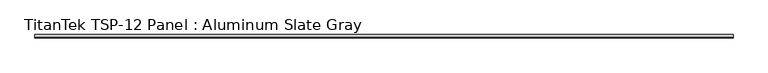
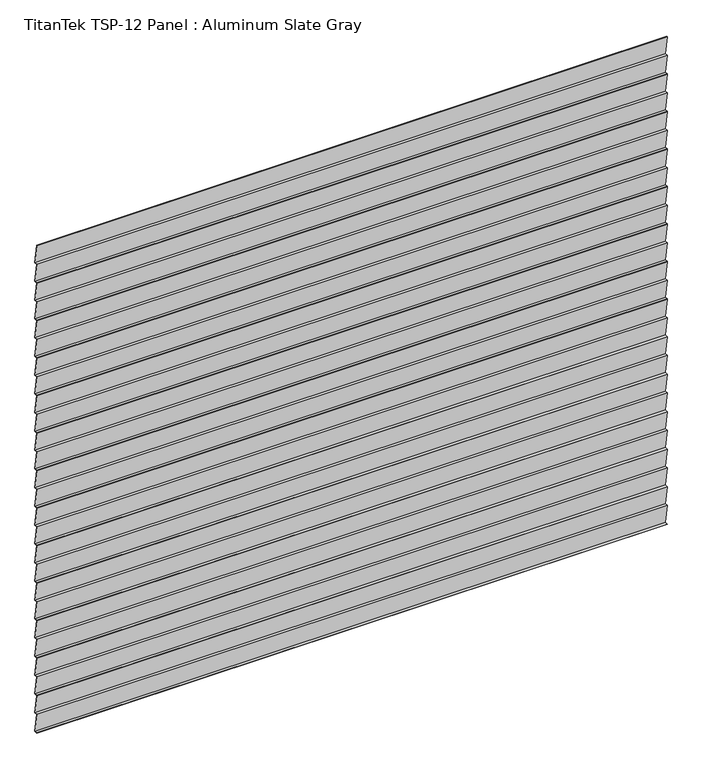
"""IFC4 building model written with IfcOpenShell, lengths in millimetres: proxy geometry, TitanTek TSP-12 Panel : Aluminum Slate Gray."""

from ifc_helpers import new_model, si_unit, frame, origin, place, context, project, spatial, polyline, outline, extrude, source, transform, mapped, element, save


def titantek_tsp_12_panel_aluminum_slate_gray_a38cbdb6(model_context):
    return source(origin(), model_context, "Body", "SweptSolid", [
        extrude(outline(polyline([(-4.1671875, 3810.9921875), (-25.2617655, 3962.4), (-24.2599947, 3962.4), (-3.0271822, 3810.0), (-24.2599947, 3810.0), (-3.0271822, 3657.6), (-25.4, 3657.6), (-25.4, 3658.5921875), (-4.1671875, 3658.5921875), (-25.4, 3810.9921875), (-4.1671875, 3810.9921875)])), frame((0.0, 0.0, 0.0), z_axis=(1.0, 0.0, 0.0), x_axis=(0.0, 1.0, 0.0)), (0.0, 0.0, 1.0), 4850.0),
        extrude(outline(polyline([(-4.1671875, 3506.1921875), (-25.2617655, 3657.6), (-24.2599947, 3657.6), (-3.0271822, 3505.2), (-24.2599947, 3505.2), (-3.0271822, 3352.8), (-25.4, 3352.8), (-25.4, 3353.7921875), (-4.1671875, 3353.7921875), (-25.4, 3506.1921875), (-4.1671875, 3506.1921875)])), frame((0.0, 0.0, 0.0), z_axis=(1.0, 0.0, 0.0), x_axis=(0.0, 1.0, 0.0)), (0.0, 0.0, 1.0), 4850.0),
        extrude(outline(polyline([(-4.1671875, 3201.3921875), (-25.2617655, 3352.8), (-24.2599947, 3352.8), (-3.0271822, 3200.4), (-24.2599947, 3200.4), (-3.0271822, 3048.0), (-25.4, 3048.0), (-25.4, 3048.9921875), (-4.1671875, 3048.9921875), (-25.4, 3201.3921875), (-4.1671875, 3201.3921875)])), frame((0.0, 0.0, 0.0), z_axis=(1.0, 0.0, 0.0), x_axis=(0.0, 1.0, 0.0)), (0.0, 0.0, 1.0), 4850.0),
        extrude(outline(polyline([(-4.1671875, 2896.5921875), (-25.2617655, 3048.0), (-24.2599947, 3048.0), (-3.0271822, 2895.6), (-24.2599947, 2895.6), (-3.0271822, 2743.2), (-25.4, 2743.2), (-25.4, 2744.1921875), (-4.1671875, 2744.1921875), (-25.4, 2896.5921875), (-4.1671875, 2896.5921875)])), frame((0.0, 0.0, 0.0), z_axis=(1.0, 0.0, 0.0), x_axis=(0.0, 1.0, 0.0)), (0.0, 0.0, 1.0), 4850.0),
        extrude(outline(polyline([(-4.1671875, 2591.7921875), (-25.2617655, 2743.2), (-24.2599947, 2743.2), (-3.0271822, 2590.8), (-24.2599947, 2590.8), (-3.0271822, 2438.4), (-25.4, 2438.4), (-25.4, 2439.3921875), (-4.1671875, 2439.3921875), (-25.4, 2591.7921875), (-4.1671875, 2591.7921875)])), frame((0.0, 0.0, 0.0), z_axis=(1.0, 0.0, 0.0), x_axis=(0.0, 1.0, 0.0)), (0.0, 0.0, 1.0), 4850.0),
        extrude(outline(polyline([(-4.1671875, 2286.9921875), (-25.2617655, 2438.4), (-24.2599947, 2438.4), (-3.0271822, 2286.0), (-24.2599947, 2286.0), (-3.0271822, 2133.6), (-25.4, 2133.6), (-25.4, 2134.5921875), (-4.1671875, 2134.5921875), (-25.4, 2286.9921875), (-4.1671875, 2286.9921875)])), frame((0.0, 0.0, 0.0), z_axis=(1.0, 0.0, 0.0), x_axis=(0.0, 1.0, 0.0)), (0.0, 0.0, 1.0), 4850.0),
        extrude(outline(polyline([(-4.1671875, 1982.1921875), (-25.2617655, 2133.6), (-24.2599947, 2133.6), (-3.0271822, 1981.2), (-24.2599947, 1981.2), (-3.0271822, 1828.8), (-25.4, 1828.8), (-25.4, 1829.7921875), (-4.1671875, 1829.7921875), (-25.4, 1982.1921875), (-4.1671875, 1982.1921875)])), frame((0.0, 0.0, 0.0), z_axis=(1.0, 0.0, 0.0), x_axis=(0.0, 1.0, 0.0)), (0.0, 0.0, 1.0), 4850.0),
        extrude(outline(polyline([(-4.1671875, 1677.3921875), (-25.2617655, 1828.8), (-24.2599947, 1828.8), (-3.0271822, 1676.4), (-24.2599947, 1676.4), (-3.0271822, 1524.0), (-25.4, 1524.0), (-25.4, 1524.9921875), (-4.1671875, 1524.9921875), (-25.4, 1677.3921875), (-4.1671875, 1677.3921875)])), frame((0.0, 0.0, 0.0), z_axis=(1.0, 0.0, 0.0), x_axis=(0.0, 1.0, 0.0)), (0.0, 0.0, 1.0), 4850.0),
        extrude(outline(polyline([(-4.1671875, 1372.5921875), (-25.2617655, 1524.0), (-24.2599947, 1524.0), (-3.0271822, 1371.6), (-24.2599947, 1371.6), (-3.0271822, 1219.2), (-25.4, 1219.2), (-25.4, 1220.1921875), (-4.1671875, 1220.1921875), (-25.4, 1372.5921875), (-4.1671875, 1372.5921875)])), frame((0.0, 0.0, 0.0), z_axis=(1.0, 0.0, 0.0), x_axis=(0.0, 1.0, 0.0)), (0.0, 0.0, 1.0), 4850.0),
        extrude(outline(polyline([(-4.1671875, 1067.7921875), (-25.2617655, 1219.2), (-24.2599947, 1219.2), (-3.0271822, 1066.8), (-24.2599947, 1066.8), (-3.0271822, 914.4), (-25.4, 914.4), (-25.4, 915.3921875), (-4.1671875, 915.3921875), (-25.4, 1067.7921875), (-4.1671875, 1067.7921875)])), frame((0.0, 0.0, 0.0), z_axis=(1.0, 0.0, 0.0), x_axis=(0.0, 1.0, 0.0)), (0.0, 0.0, 1.0), 4850.0),
        extrude(outline(polyline([(-4.1671875, 762.9921875), (-25.2617655, 914.4), (-24.2599947, 914.4), (-3.0271822, 762.0), (-24.2599947, 762.0), (-3.0271822, 609.6), (-25.4, 609.6), (-25.4, 610.5921875), (-4.1671875, 610.5921875), (-25.4, 762.9921875), (-4.1671875, 762.9921875)])), frame((0.0, 0.0, 0.0), z_axis=(1.0, 0.0, 0.0), x_axis=(0.0, 1.0, 0.0)), (0.0, 0.0, 1.0), 4850.0),
        extrude(outline(polyline([(-4.1671875, 458.1921875), (-25.2617655, 609.6), (-24.2599947, 609.6), (-3.0271822, 457.2), (-24.2599947, 457.2), (-3.0271822, 304.8), (-25.4, 304.8), (-25.4, 305.7921875), (-4.1671875, 305.7921875), (-25.4, 458.1921875), (-4.1671875, 458.1921875)])), frame((0.0, 0.0, 0.0), z_axis=(1.0, 0.0, 0.0), x_axis=(0.0, 1.0, 0.0)), (0.0, 0.0, 1.0), 4850.0),
        extrude(outline(polyline([(-4.1671875, 153.3921875), (-25.2617655, 304.8), (-24.2599947, 304.8), (-3.0271822, 152.4), (-24.2599947, 152.4), (-3.0271822, 0.0), (-25.4, 0.0), (-25.4, 0.9921875), (-4.1671875, 0.9921875), (-25.4, 153.3921875), (-4.1671875, 153.3921875)])), frame((0.0, 0.0, 0.0), z_axis=(1.0, 0.0, 0.0), x_axis=(0.0, 1.0, 0.0)), (0.0, 0.0, 1.0), 4850.0),
    ])


if __name__ == "__main__":
    model = new_model("IFC4")
    model_context = context("Model", 3, world=origin())
    ifc_project = project(units=[si_unit("LENGTHUNIT", "METRE", prefix="MILLI")], contexts=[model_context])
    site = spatial("IfcSite", under=ifc_project)
    building = spatial("IfcBuilding", under=site)
    placement = place(None, origin())
    titantek_tsp_12_panel_aluminum_slate_gray_shape = titantek_tsp_12_panel_aluminum_slate_gray_a38cbdb6(model_context)
    element("IfcBuildingElementProxy", 1, Name="TitanTek TSP-12 Panel : Aluminum Slate Gray", ObjectType="TitanTek TSP-12 Panel : Aluminum Slate Gray", at=placement, inside=building, context=model_context, shape_type="MappedRepresentation", body=[
        mapped(titantek_tsp_12_panel_aluminum_slate_gray_shape, transform((0.0, 0.0, 0.0), x_axis=(1.0, 0.0, 0.0), y_axis=(0.0, 1.0, 0.0), z_axis=(0.0, 0.0, 1.0))),
    ])
    save(model, "model.ifc")
